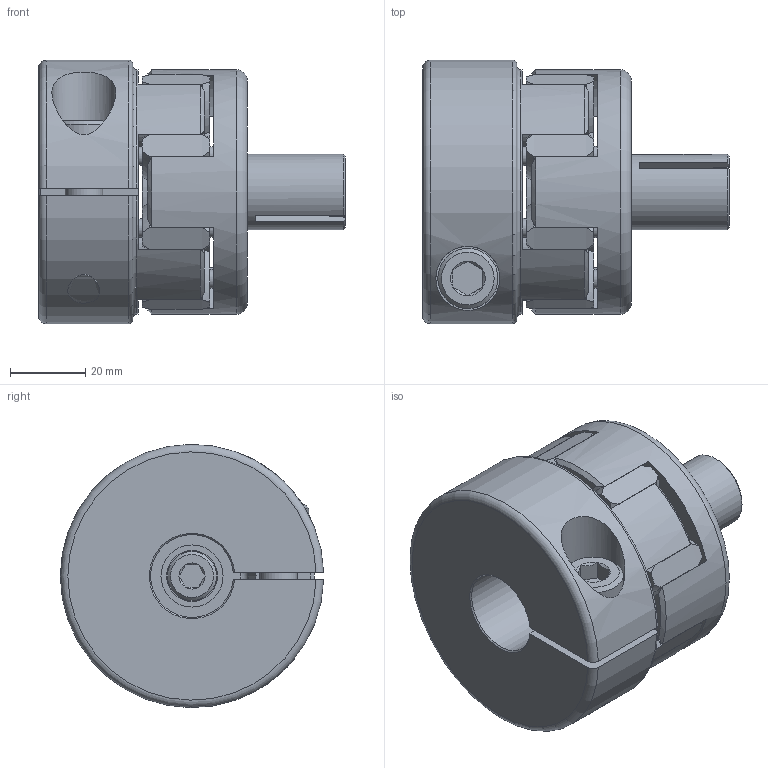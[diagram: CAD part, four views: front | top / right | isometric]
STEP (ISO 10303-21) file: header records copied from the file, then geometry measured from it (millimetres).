
FILE_DESCRIPTION(/* description */ ('STEP AP214'),/* implementation_level */ '2;1');
FILE_NAME(/* name */ 'EKS 100 - D1=22 D2=20',/* time_stamp */ '2026-10-28T12:28:43+01:00',/* author */ ('License CC BY-ND 4.0'),/* organization */ ('CADENAS'),/* preprocessor_version */ 'ST-DEVELOPER v20',/* originating_system */ 'PARTsolutions',/* authorisation */ ' ');
FILE_SCHEMA (('AUTOMOTIVE_DESIGN {1 0 10303 214 3 1 1}'));
Length unit declared in the file: millimetre
Products named in the file (6): EKS 100 - D1=22 D2=20; EKS 100 - D1=22_1_part1; 100; EKS 100 - D2=20_part2; Cylinder screw ISO 4762 M8x30; Cylinder screw ISO 4762 M10x25
Assembly tree (5 placements, depth 2):
  EKS 100 - D1=22 D2=20
    EKS 100 - D1=22_1_part1
    100
    EKS 100 - D2=20_part2
    Cylinder screw ISO 4762 M8x30
    Cylinder screw ISO 4762 M10x25
Bounding box: 81.5 x 69.99 x 69.99 mm (x, y, z)
Volume: 171217.8 mm3; surface area: 48836.1 mm2
Topology: 5 solids, 5 shells, 248 faces, 588 edges, 366 vertices
Faces by surface type: cone 95, cylinder 85, plane 58, torus 10
Full cylindrical faces by diameter (mm): 5 x8, 6.5 x1, 8 x1, 8.5 x1, 8.6 x1, 10 x1, 10.4 x1, 13 x1, 13.5 x1, 16 x1, 16.5 x1, 17 x1, 20 x1, 30 x2, 65 x1
Entity records: 7718 total; most frequent: CARTESIAN_POINT 1611, DIRECTION 1212, ORIENTED_EDGE 1086, AXIS2_PLACEMENT_3D 546, EDGE_CURVE 543, VERTEX_POINT 363, EDGE_LOOP 316, FACE_BOUND 316
